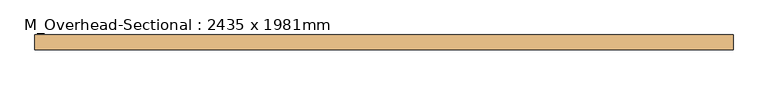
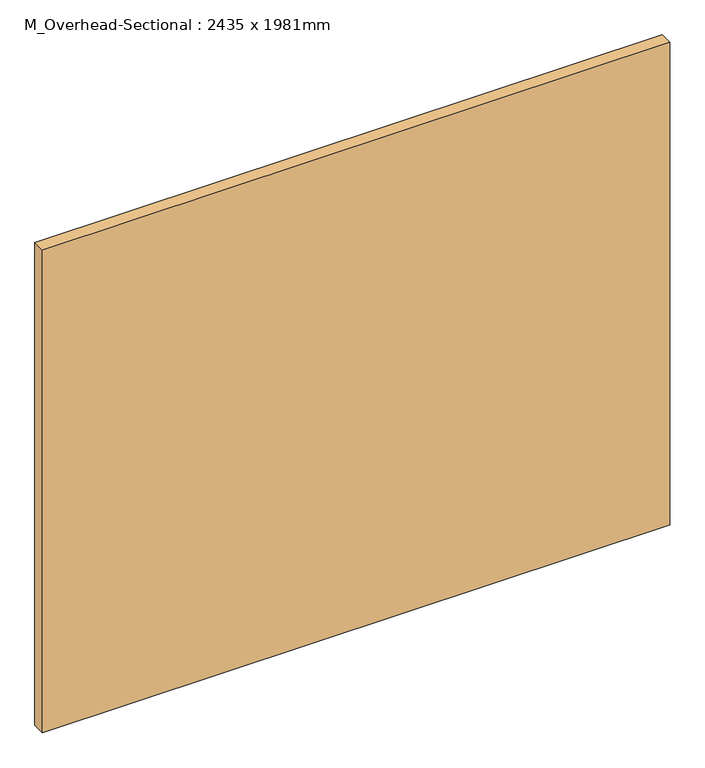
"""IFC4 building model written with IfcOpenShell, lengths in millimetres: door geometry, M_Overhead-Sectional : 2435 x 1981mm."""

from ifc_helpers import new_model, si_unit, origin, origin_with_axes, place, context, project, spatial, polyline, outline, extrude, source, transform, mapped, element, save


def m_overhead_sectional_2435_x_1981mm_f0762edc(model_context):
    return source(origin(), model_context, "Body", "SweptSolid", [
        extrude(outline(polyline([(1217.5, 135.0), (-1217.5, 135.0), (-1217.5, 186.0), (1217.5, 186.0), (1217.5, 135.0)])), origin_with_axes(), (0.0, 0.0, 1.0), 1981.0),
    ])


if __name__ == "__main__":
    model = new_model("IFC4")
    model_context = context("Model", 3, world=origin())
    ifc_project = project(units=[si_unit("LENGTHUNIT", "METRE", prefix="MILLI")], contexts=[model_context])
    site = spatial("IfcSite", under=ifc_project)
    building = spatial("IfcBuilding", under=site)
    placement = place(None, origin())
    m_overhead_sectional_2435_x_1981mm_shape = m_overhead_sectional_2435_x_1981mm_f0762edc(model_context)
    element("IfcDoor", 1, ObjectType="M_Overhead-Sectional : 2435 x 1981mm", at=placement, inside=building, context=model_context, shape_type="MappedRepresentation", body=[
        mapped(m_overhead_sectional_2435_x_1981mm_shape, transform((0.0, 0.0, 0.0), x_axis=(1.0, 0.0, 0.0), y_axis=(0.0, 1.0, 0.0), z_axis=(0.0, 0.0, 1.0))),
    ])
    save(model, "model.ifc")
